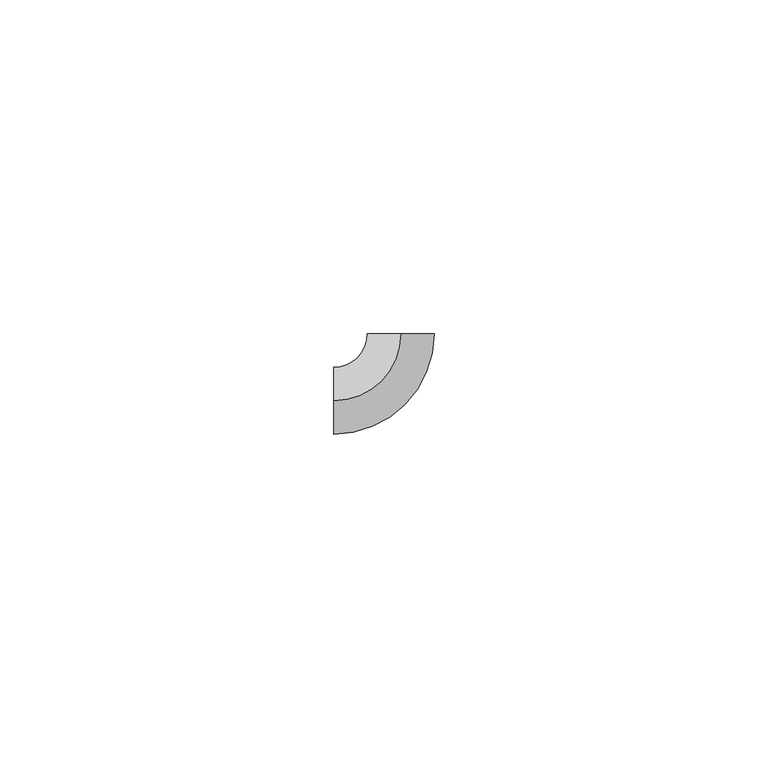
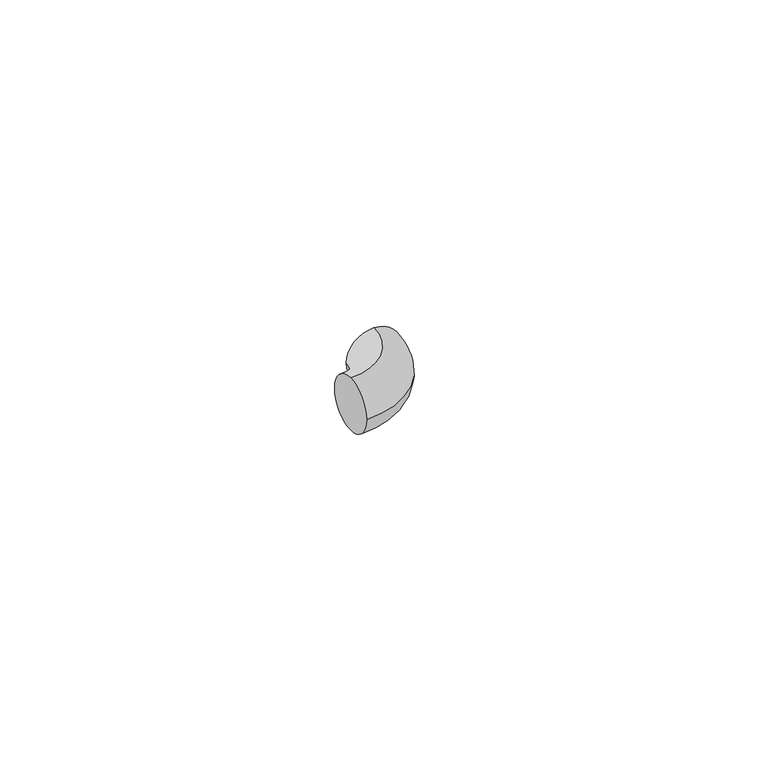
"""IFC4 building model written with IfcOpenShell, lengths in millimetres: duct fitting geometry, КНС_Поворот_Пруток_Неспецифицируемое_DKC : Стандарт."""

from ifc_helpers import new_model, si_unit, point, frame, origin, place, context, project, spatial, circle_curve, ellipse_curve, trimmed, source, transform, mapped, element, save
from ifc_brep_helpers import plane_surface, revolved_surface, advanced_brep


def duct_fitting_c2324ee3(model_context):
    return source(origin(), model_context, "Body", "AdvancedBrep", [
        advanced_brep(
        [(-10.0, 0.0, 5.0), (-10.0, 5.0, 0.0), (-10.0, 0.0, -5.0), (-10.0, -5.0, 0.0), (0.0, 10.0, 5.0), (5.0, 10.0, 0.0), (0.0, 10.0, -5.0), (-5.0, 10.0, 0.0)],
        [
            (0, 1, circle_curve(frame((-10.0, 0.0, 0.0), z_axis=(-1.0, 0.0, 0.0), x_axis=(0.0, 1.0, 0.0)), 5.0)),
            (1, 2, circle_curve(frame((-10.0, 0.0, 0.0), z_axis=(-1.0, 0.0, 0.0), x_axis=(0.0, 1.0, 0.0)), 5.0)),
            (2, 3, circle_curve(frame((-10.0, 0.0, 0.0), z_axis=(-1.0, 0.0, 0.0), x_axis=(0.0, 1.0, 0.0)), 5.0)),
            (3, 0, circle_curve(frame((-10.0, 0.0, 0.0), z_axis=(-1.0, 0.0, 0.0), x_axis=(0.0, 1.0, 0.0)), 5.0)),
            (4, 5, circle_curve(frame((0.0, 10.0, 0.0), z_axis=(0.0, 1.0, 0.0), x_axis=(-1.0, 0.0, 0.0)), 5.0)),
            (5, 6, circle_curve(frame((0.0, 10.0, 0.0), z_axis=(0.0, 1.0, 0.0), x_axis=(-1.0, 0.0, 0.0)), 5.0)),
            (6, 7, circle_curve(frame((0.0, 10.0, 0.0), z_axis=(0.0, 1.0, 0.0), x_axis=(-1.0, 0.0, 0.0)), 5.0)),
            (7, 4, circle_curve(frame((0.0, 10.0, 0.0), z_axis=(0.0, 1.0, 0.0), x_axis=(-1.0, 0.0, 0.0)), 5.0)),
            (7, 1, circle_curve(frame((-10.0, 10.0, 0.0), z_axis=(0.0, 0.0, -1.0), x_axis=(0.0, -1.0, 0.0)), 5.0)),
            (0, 4, circle_curve(frame((-10.0, 10.0, 5.0), z_axis=(0.0, 0.0, 1.0), x_axis=(0.0, -1.0, 0.0)), 10.0)),
            (6, 2, circle_curve(frame((-10.0, 10.0, -5.0), z_axis=(0.0, 0.0, -1.0), x_axis=(0.0, -1.0, 0.0)), 10.0)),
            (5, 3, circle_curve(frame((-10.0, 10.0, 0.0), z_axis=(0.0, 0.0, -1.0), x_axis=(0.0, -1.0, 0.0)), 15.0)),
        ],
        [
            plane_surface(frame((-10.0, 0.0, 0.0), z_axis=(-1.0, 0.0, 0.0), x_axis=(0.0, 0.0, 1.0))),
            plane_surface(frame((0.0, 10.0, 0.0), z_axis=(0.0, 1.0, 0.0), x_axis=(0.0, 0.0, 1.0))),
            revolved_surface(trimmed(ellipse_curve(frame((-10.0, 0.0, 0.0), z_axis=(-1.0, 0.0, 0.0), x_axis=(0.0, 1.0, 0.0)), 5.0, 5.0), [point((-10.0, 0.0, 5.0))], [point((-10.0, 5.0, 0.0))], True, "CARTESIAN"), (-10.0, 10.0, 0.0), (0.0, 0.0, 1.0)),
            revolved_surface(trimmed(ellipse_curve(frame((-10.0, 0.0, 0.0), z_axis=(-1.0, 0.0, 0.0), x_axis=(0.0, 1.0, 0.0)), 5.0, 5.0), [point((-10.0, 5.0, 0.0))], [point((-10.0, 0.0, -5.0))], True, "CARTESIAN"), (-10.0, 10.0, 0.0), (0.0, 0.0, 1.0)),
            revolved_surface(trimmed(ellipse_curve(frame((-10.0, 0.0, 0.0), z_axis=(-1.0, 0.0, 0.0), x_axis=(0.0, 1.0, 0.0)), 5.0, 5.0), [point((-10.0, 0.0, -5.0))], [point((-10.0, -5.0, 0.0))], True, "CARTESIAN"), (-10.0, 10.0, 0.0), (0.0, 0.0, 1.0)),
            revolved_surface(trimmed(ellipse_curve(frame((-10.0, 0.0, 0.0), z_axis=(-1.0, 0.0, 0.0), x_axis=(0.0, 1.0, 0.0)), 5.0, 5.0), [point((-10.0, -5.0, 0.0))], [point((-10.0, 0.0, 5.0))], True, "CARTESIAN"), (-10.0, 10.0, 0.0), (0.0, 0.0, 1.0)),
        ],
        [
            (0, [[1, 2, 3, 4]]),
            (1, [[5, 6, 7, 8]]),
            (2, [[9, -1, 10, -8]]),
            (3, [[11, -2, -9, -7]]),
            (4, [[12, -3, -11, -6]]),
            (5, [[-10, -4, -12, -5]]),
        ],
    ),
    ])


if __name__ == "__main__":
    model = new_model("IFC4")
    model_context = context("Model", 3, world=origin())
    ifc_project = project(units=[si_unit("LENGTHUNIT", "METRE", prefix="MILLI")], contexts=[model_context])
    site = spatial("IfcSite", under=ifc_project)
    building = spatial("IfcBuilding", under=site)
    placement = place(None, origin())
    duct_fitting_shape = duct_fitting_c2324ee3(model_context)
    element("IfcDuctFitting", 1, ObjectType="КНС_Поворот_Пруток_Неспецифицируемое_DKC : Стандарт", at=placement, inside=building, context=model_context, shape_type="MappedRepresentation", body=[
        mapped(duct_fitting_shape, transform((0.0, 0.0, 0.0), x_axis=(1.0, 0.0, 0.0), y_axis=(0.0, 1.0, 0.0), z_axis=(0.0, 0.0, 1.0))),
    ])
    save(model, "model.ifc")
